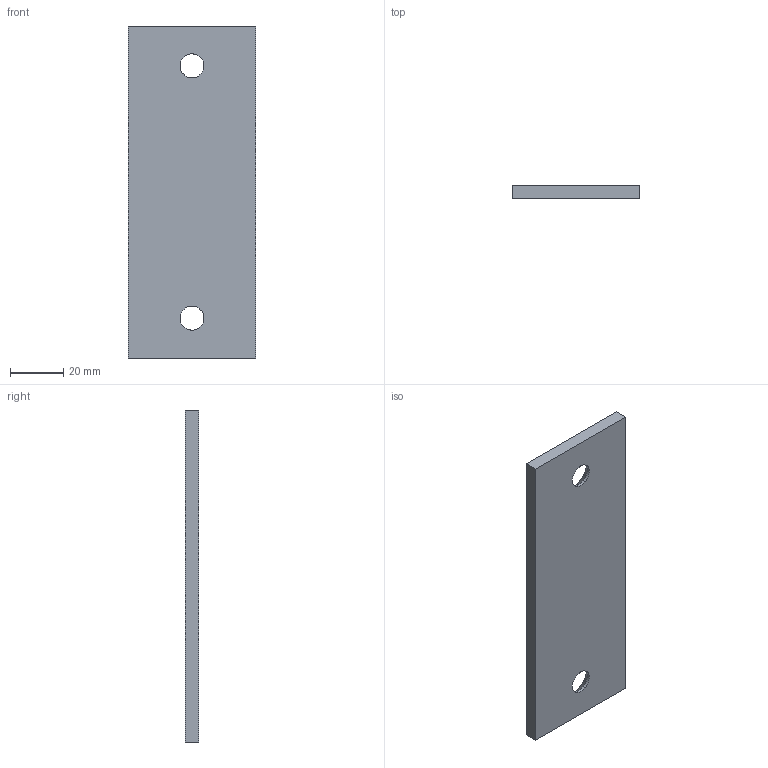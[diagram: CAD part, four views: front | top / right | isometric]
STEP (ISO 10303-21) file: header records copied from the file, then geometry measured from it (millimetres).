
FILE_DESCRIPTION(('CATIA V5 STEP Exchange'),'2;1');
FILE_NAME('C:\Users\Utente\Desktop\3D files A605\A605-048-125.stp','2020-04-13T15:43:57+00:00',('none'),('none'),'CATIA Version 5 Release 20 GA (IN-10)','CATIA V5 STEP AP203','none');
FILE_SCHEMA(('CONFIG_CONTROL_DESIGN'));
Length unit declared in the file: millimetre
Products named in the file (1): Noname
Bounding box: 48 x 5 x 125 mm (x, y, z)
Surface area: 13667.4 mm2 (no closed solid volume)
Topology: 0 solids, 10 shells, 14 faces, 56 edges, 48 vertices
Faces by surface type: extrusion 6, cylinder 4, revolution 4
Entity records: 726 total; most frequent: CARTESIAN_POINT 233, DIRECTION 66, ORIENTED_EDGE 64, EDGE_CURVE 56, VERTEX_POINT 48, VECTOR 38, LINE 32, AXIS2_PLACEMENT_3D 21
